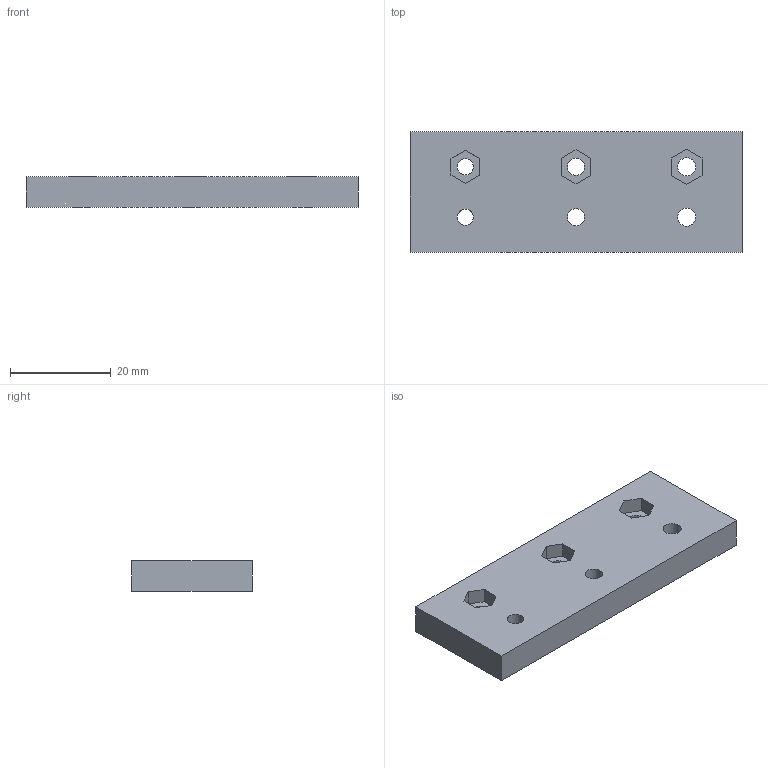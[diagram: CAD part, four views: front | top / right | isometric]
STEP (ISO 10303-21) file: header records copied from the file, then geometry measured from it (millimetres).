
FILE_DESCRIPTION(('Open CASCADE Model'),'2;1');
FILE_NAME('Open CASCADE Shape Model','2026-11-08T04:10:22',('Author'),( 'Open CASCADE'),'Open CASCADE STEP processor 7.8','Open CASCADE 7.8' ,'Unknown');
FILE_SCHEMA(('AUTOMOTIVE_DESIGN { 1 0 10303 214 1 1 1 1 }'));
Length unit declared in the file: millimetre
Products named in the file (1): Open CASCADE STEP translator 7.8 12
Bounding box: 66 x 24 x 6 mm (x, y, z)
Volume: 8986.8 mm3; surface area: 4611.1 mm2
Topology: 1 solids, 1 shells, 33 faces, 84 edges, 56 vertices
Faces by surface type: plane 27, cylinder 6
Full cylindrical faces by diameter (mm): 3.2 x2, 3.4 x2, 3.6 x2
Entity records: 2080 total; most frequent: CARTESIAN_POINT 378, DIRECTION 296, LINE 192, VECTOR 192, ORIENTED_EDGE 168, PCURVE 168, DEFINITIONAL_REPRESENTATION 168, EDGE_CURVE 84
